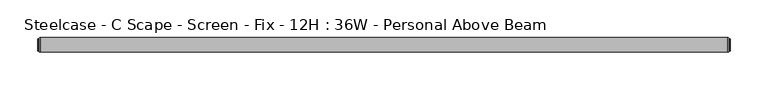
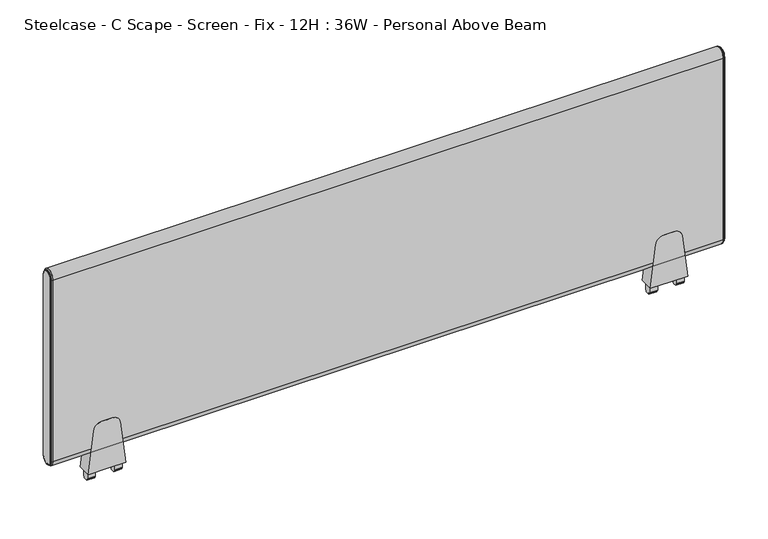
"""IFC4 building model written with IfcOpenShell, lengths in millimetres: furniture geometry, Steelcase - C Scape - Screen - Fix - 12H : 36W - Personal Above Beam."""

from ifc_helpers import new_model, si_unit, point, frame, frame_2d, origin, place, context, project, spatial, polyline, circle_curve, ellipse_curve, trimmed, segment, composite_curve, outline, extrude, source, transform, mapped, element, save
from ifc_brep_helpers import plane_surface, cylinder_surface, revolved_surface, advanced_brep


def steelcase_c_scape_screen_fix_12h_36w_personal_above_beam_a3be2cec(model_context):
    return source(origin(), model_context, "Body", "SolidModel", [
        extrude(outline(composite_curve([segment(polyline([(609.511112, 101.4730434), (669.8362421, 94.0661495)]), True, "CONTINUOUS"), segment(trimmed(circle_curve(frame_2d((668.5143718, 83.300233)), 10.8467645), [point((669.8362421, 94.0661495))], [point((679.3611362, 83.300233))], False, "CARTESIAN"), True, "CONTINUOUS"), segment(polyline([(679.3611362, 83.300233), (679.3611362, 76.2001674), (679.3611362, 69.1001018)]), True, "CONTINUOUS"), segment(trimmed(circle_curve(frame_2d((668.5143718, 69.1001018)), 10.8467645), [point((679.3611362, 69.1001018))], [point((669.8362421, 58.3341853))], False, "CARTESIAN"), True, "CONTINUOUS"), segment(polyline([(669.8362421, 58.3341853), (609.511112, 50.9272915), (609.511112, 76.2001674), (609.511112, 101.4730434)]), True, "CONTINUOUS")], self_intersect=False)), frame((0.0, -9.525, 0.0), z_axis=(0.0, 1.0, 0.0), x_axis=(0.0, 0.0, 1.0)), (0.0, 0.0, 1.0), 19.05),
        extrude(outline(polyline([(4.5465975, 609.511112), (4.5465975, 599.6051033), (4.0139265, 598.7186748), (2.9972008, 598.7186748), (2.9972008, 596.4834188), (0.0, 596.392), (-2.9972008, 596.4834188), (-2.9972008, 598.7186748), (-4.0139265, 598.7186748), (-4.5465975, 599.6051033), (-4.5465975, 609.511112), (0.0, 609.511112), (4.5465975, 609.511112)])), frame((88.9267162, 0.0, 0.0), z_axis=(1.0, 0.0, 0.0), x_axis=(0.0, 1.0, 0.0)), (0.0, 0.0, 1.0), 10.7813187),
        extrude(outline(polyline([(4.5465975, 609.511112), (4.5465975, 599.6051033), (4.0139265, 598.7186748), (2.9972008, 598.7186748), (2.9972008, 596.4834188), (0.0, 596.392), (-2.9972008, 596.4834188), (-2.9972008, 598.7186748), (-4.0139265, 598.7186748), (-4.5465975, 599.6051033), (-4.5465975, 609.511112), (0.0, 609.511112), (4.5465975, 609.511112)])), frame((52.6923, 0.0, 0.0), z_axis=(1.0, 0.0, 0.0), x_axis=(0.0, 1.0, 0.0)), (0.0, 0.0, 1.0), 10.7813187),
        extrude(outline(composite_curve([segment(polyline([(609.511112, 862.7107132), (669.8362421, 855.3038193)]), True, "CONTINUOUS"), segment(trimmed(circle_curve(frame_2d((668.5143718, 844.5379028)), 10.8467645), [point((669.8362421, 855.3038193))], [point((679.3611362, 844.5379028))], False, "CARTESIAN"), True, "CONTINUOUS"), segment(polyline([(679.3611362, 844.5379028), (679.3611362, 837.4378372), (679.3611362, 830.3377716)]), True, "CONTINUOUS"), segment(trimmed(circle_curve(frame_2d((668.5143718, 830.3377716)), 10.8467645), [point((679.3611362, 830.3377716))], [point((669.8362421, 819.5718551))], False, "CARTESIAN"), True, "CONTINUOUS"), segment(polyline([(669.8362421, 819.5718551), (609.511112, 812.1649612), (609.511112, 837.4378372), (609.511112, 862.7107132)]), True, "CONTINUOUS")], self_intersect=False)), frame((0.0, -9.525, 0.0), z_axis=(0.0, 1.0, 0.0), x_axis=(0.0, 0.0, 1.0)), (0.0, 0.0, 1.0), 19.05),
        extrude(outline(polyline([(4.5465975, 609.511112), (4.5465975, 599.6051033), (4.0139265, 598.7186748), (2.9972008, 598.7186748), (2.9972008, 596.4834188), (0.0, 596.392), (-2.9972008, 596.4834188), (-2.9972008, 598.7186748), (-4.0139265, 598.7186748), (-4.5465975, 599.6051033), (-4.5465975, 609.511112), (0.0, 609.511112), (4.5465975, 609.511112)])), frame((850.164386, 0.0, 0.0), z_axis=(1.0, 0.0, 0.0), x_axis=(0.0, 1.0, 0.0)), (0.0, 0.0, 1.0), 10.7813187),
        extrude(outline(polyline([(4.5465975, 609.511112), (4.5465975, 599.6051033), (4.0139265, 598.7186748), (2.9972008, 598.7186748), (2.9972008, 596.4834188), (0.0, 596.392), (-2.9972008, 596.4834188), (-2.9972008, 598.7186748), (-4.0139265, 598.7186748), (-4.5465975, 599.6051033), (-4.5465975, 609.511112), (0.0, 609.511112), (4.5465975, 609.511112)])), frame((813.9299698, 0.0, 0.0), z_axis=(1.0, 0.0, 0.0), x_axis=(0.0, 1.0, 0.0)), (0.0, 0.0, 1.0), 10.7813187),
        advanced_brep(
        [(910.8486613, -9.525, 904.875), (910.8486613, 9.525, 904.875), (910.8486613, 9.525, 644.525), (910.8486613, -9.525, 644.525), (913.6426613, 7.4929583, 904.875), (913.6426613, -7.4929583, 904.875), (913.6426613, -7.4929583, 644.525), (913.6426613, 7.4929583, 644.525), (913.1346545, -8.0009651, 904.875), (913.1346545, 8.0009651, 904.875), (911.8646613, 8.0009651, 904.875), (911.8646613, -8.0009651, 904.875), (911.8646613, -8.8204932, 904.875), (911.8646613, 8.8204932, 904.875), (911.8646613, -8.0009651, 644.525), (913.1346545, -8.0009651, 644.525), (911.8646613, -8.8204932, 644.525), (911.8646613, 8.0009651, 644.525), (913.1346545, 8.0009651, 644.525), (911.8646613, 8.8204932, 644.525)],
        [
            (0, 1, circle_curve(frame((910.8486613, 0.0, 904.875), z_axis=(-1.0, 0.0, 0.0), x_axis=(0.0, 1.0, 0.0)), 9.525)),
            (1, 2),
            (2, 3, circle_curve(frame((910.8486613, 0.0, 644.525), z_axis=(-1.0, 0.0, 0.0), x_axis=(0.0, -1.0, 0.0)), 9.525)),
            (3, 0),
            (4, 5, circle_curve(frame((913.6426613, 0.0, 904.875), z_axis=(1.0, 0.0, 0.0), x_axis=(0.0, 1.0, 0.0)), 7.4929583)),
            (5, 6),
            (6, 7, circle_curve(frame((913.6426613, 0.0, 644.525), z_axis=(1.0, 0.0, 0.0), x_axis=(0.0, -1.0, 0.0)), 7.4929583)),
            (7, 4),
            (8, 9, circle_curve(frame((913.1346545, 0.0, 904.875), z_axis=(-1.0, 0.0, 0.0), x_axis=(0.0, 1.0, 0.0)), 8.0009651)),
            (9, 10),
            (10, 11, circle_curve(frame((911.8646613, 0.0, 904.875), z_axis=(1.0, 0.0, 0.0), x_axis=(0.0, 1.0, 0.0)), 8.0009651)),
            (11, 8),
            (8, 5, circle_curve(frame((913.1346545, -7.4929583, 904.875), z_axis=(0.0, 0.0, 1.0), x_axis=(0.0, -1.0, 0.0)), 0.5080068)),
            (4, 9, circle_curve(frame((913.1346545, 7.4929583, 904.875), z_axis=(0.0, 0.0, 1.0), x_axis=(0.0, 1.0, 0.0)), 0.5080068)),
            (12, 13, circle_curve(frame((911.8646613, 0.0, 904.875), z_axis=(-1.0, 0.0, 0.0), x_axis=(0.0, 1.0, 0.0)), 8.8204932)),
            (13, 1, circle_curve(frame((910.7806211, 8.3420139, 904.875), z_axis=(0.0, 0.0, 1.0), x_axis=(0.0, 1.0, 0.0)), 1.1849411)),
            (0, 12, circle_curve(frame((910.7806211, -8.3420139, 904.875), z_axis=(0.0, 0.0, 1.0), x_axis=(0.0, -1.0, 0.0)), 1.1849411)),
            (11, 14),
            (14, 15),
            (15, 8),
            (15, 6, circle_curve(frame((913.1346545, -7.4929583, 644.525), z_axis=(0.0, 0.0, 1.0), x_axis=(0.0, -1.0, 0.0)), 0.5080068)),
            (3, 16, circle_curve(frame((910.7806211, -8.3420139, 644.525), z_axis=(0.0, 0.0, 1.0), x_axis=(0.0, -1.0, 0.0)), 1.1849411)),
            (16, 12),
            (14, 17, circle_curve(frame((911.8646613, 0.0, 644.525), z_axis=(1.0, 0.0, 0.0), x_axis=(0.0, -1.0, 0.0)), 8.0009651)),
            (17, 18),
            (18, 15, circle_curve(frame((913.1346545, 0.0, 644.525), z_axis=(-1.0, 0.0, 0.0), x_axis=(0.0, -1.0, 0.0)), 8.0009651)),
            (18, 7, circle_curve(frame((913.1346545, 7.4929583, 644.525), z_axis=(0.0, 0.0, -1.0), x_axis=(0.0, 1.0, 0.0)), 0.5080068)),
            (2, 19, circle_curve(frame((910.7806211, 8.3420139, 644.525), z_axis=(0.0, 0.0, -1.0), x_axis=(0.0, 1.0, 0.0)), 1.1849411)),
            (19, 16, circle_curve(frame((911.8646613, 0.0, 644.525), z_axis=(-1.0, 0.0, 0.0), x_axis=(0.0, -1.0, 0.0)), 8.8204932)),
            (9, 18),
            (17, 10),
            (13, 19),
        ],
        [
            plane_surface(frame((910.8486613, -6.3509705, 904.875), z_axis=(-1.0, 0.0, 0.0), x_axis=(0.0, 0.0, 1.0))),
            plane_surface(frame((913.6426613, -6.3509705, 904.875), z_axis=(1.0, 0.0, 0.0), x_axis=(0.0, 0.0, -1.0))),
            cylinder_surface(frame((910.8486613, 0.0, 904.875), z_axis=(1.0, 0.0, 0.0), x_axis=(0.0, 1.0, 0.0)), 8.0009651),
            revolved_surface(trimmed(ellipse_curve(frame((913.1346545, 7.4929583, 904.875), z_axis=(0.0, 0.0, -1.0), x_axis=(0.0, 1.0, 0.0)), 0.5080068, 0.5080068), [point((913.1346545, 8.0009651, 904.875))], [point((913.6426613, 7.4929583, 904.875))], True, "CARTESIAN"), (910.8486613, 0.0, 904.875), (1.0, 0.0, 0.0)),
            revolved_surface(trimmed(ellipse_curve(frame((910.7806211, 8.3420139, 904.875), z_axis=(0.0, 0.0, -1.0), x_axis=(0.0, 1.0, 0.0)), 1.1849411, 1.1849411), [point((910.8486613, 9.525, 904.875))], [point((911.8646613, 8.8204932, 904.875))], True, "CARTESIAN"), (910.8486613, 0.0, 904.875), (1.0, 0.0, 0.0)),
            plane_surface(frame((911.8646613, -8.0009651, 904.875), z_axis=(0.0, -1.0, 0.0), x_axis=(0.0, 0.0, -1.0))),
            cylinder_surface(frame((913.1346545, -7.4929583, 904.875), z_axis=(0.0, 0.0, 1.0), x_axis=(0.0, -1.0, 0.0)), 0.5080068),
            cylinder_surface(frame((910.7806211, -8.3420139, 904.875), z_axis=(0.0, 0.0, 1.0), x_axis=(0.0, -1.0, 0.0)), 1.1849411),
            cylinder_surface(frame((910.8486613, 0.0, 644.525), z_axis=(1.0, 0.0, 0.0), x_axis=(0.0, -1.0, 0.0)), 8.0009651),
            revolved_surface(trimmed(ellipse_curve(frame((913.1346545, -7.4929583, 644.525), z_axis=(0.0, 0.0, 1.0), x_axis=(0.0, -1.0, 0.0)), 0.5080068, 0.5080068), [point((913.1346545, -8.0009651, 644.525))], [point((913.6426613, -7.4929583, 644.525))], True, "CARTESIAN"), (910.8486613, 0.0, 644.525), (1.0, 0.0, 0.0)),
            revolved_surface(trimmed(ellipse_curve(frame((910.7806211, -8.3420139, 644.525), z_axis=(0.0, 0.0, 1.0), x_axis=(0.0, -1.0, 0.0)), 1.1849411, 1.1849411), [point((910.8486613, -9.525, 644.525))], [point((911.8646613, -8.8204932, 644.525))], True, "CARTESIAN"), (910.8486613, 0.0, 644.525), (1.0, 0.0, 0.0)),
            plane_surface(frame((911.8646613, 8.0009651, 644.525), z_axis=(0.0, 1.0, 0.0), x_axis=(0.0, 0.0, 1.0))),
            cylinder_surface(frame((913.1346545, 7.4929583, 644.525), z_axis=(0.0, 0.0, -1.0), x_axis=(0.0, 1.0, 0.0)), 0.5080068),
            cylinder_surface(frame((910.7806211, 8.3420139, 644.525), z_axis=(0.0, 0.0, -1.0), x_axis=(0.0, 1.0, 0.0)), 1.1849411),
            plane_surface(frame((911.8646613, 8.8204932, 644.525), z_axis=(1.0, 0.0, 0.0), x_axis=(0.0, 0.0, 1.0))),
        ],
        [
            (0, [[1, 2, 3, 4]]),
            (1, [[5, 6, 7, 8]]),
            (2, [[9, 10, 11, 12]]),
            (3, [[-9, 13, -5, 14]]),
            (4, [[15, 16, -1, 17]]),
            (5, [[-12, 18, 19, 20]]),
            (6, [[-13, -20, 21, -6]]),
            (7, [[-17, -4, 22, 23]]),
            (8, [[-19, 24, 25, 26]]),
            (9, [[-21, -26, 27, -7]]),
            (10, [[-22, -3, 28, 29]]),
            (11, [[-10, 30, -25, 31]]),
            (12, [[-14, -8, -27, -30]]),
            (13, [[-16, 32, -28, -2]]),
            (14, [[-15, -23, -29, -32], [-11, -31, -24, -18]]),
        ],
    ),
        advanced_brep(
        [(2.7940155, 9.525, 904.875), (2.7940155, -9.525, 904.875), (2.7940155, -9.525, 644.525), (2.7940155, 9.525, 644.525), (0.0, -7.4929583, 904.875), (0.0, 7.4929583, 904.875), (0.0, 7.4929583, 644.525), (0.0, -7.4929583, 644.525), (1.778, 8.8204932, 904.875), (1.778, -8.8204932, 904.875), (0.5080068, -8.0009651, 904.875), (0.5080068, 8.0009651, 904.875), (1.778, -8.0009651, 904.875), (1.778, 8.0009651, 904.875), (1.778, -8.8204932, 644.525), (0.5080068, -8.0009651, 644.525), (1.778, -8.0009651, 644.525), (1.778, 8.8204932, 644.525), (0.5080068, 8.0009651, 644.525), (1.778, 8.0009651, 644.525)],
        [
            (0, 1, circle_curve(frame((2.7940155, 0.0, 904.875), z_axis=(1.0, 0.0, 0.0), x_axis=(0.0, 1.0, 0.0)), 9.525)),
            (1, 2),
            (2, 3, circle_curve(frame((2.7940155, 0.0, 644.525), z_axis=(1.0, 0.0, 0.0), x_axis=(0.0, -1.0, 0.0)), 9.525)),
            (3, 0),
            (4, 5, circle_curve(frame((0.0, 0.0, 904.875), z_axis=(-1.0, 0.0, 0.0), x_axis=(0.0, 1.0, 0.0)), 7.4929583)),
            (5, 6),
            (6, 7, circle_curve(frame((0.0, 0.0, 644.525), z_axis=(-1.0, 0.0, 0.0), x_axis=(0.0, -1.0, 0.0)), 7.4929583)),
            (7, 4),
            (0, 8, circle_curve(frame((2.8620402, 8.3420139, 904.875), z_axis=(0.0, 0.0, 1.0), x_axis=(0.0, -1.0, 0.0)), 1.1849411)),
            (8, 9, circle_curve(frame((1.778, 0.0, 904.875), z_axis=(1.0, 0.0, 0.0), x_axis=(0.0, 1.0, 0.0)), 8.8204932)),
            (9, 1, circle_curve(frame((2.8620402, -8.3420139, 904.875), z_axis=(0.0, 0.0, 1.0), x_axis=(0.0, 1.0, 0.0)), 1.1849411)),
            (10, 11, circle_curve(frame((0.5080068, 0.0, 904.875), z_axis=(-1.0, 0.0, 0.0), x_axis=(0.0, 1.0, 0.0)), 8.0009651)),
            (11, 5, circle_curve(frame((0.5080068, 7.4929583, 904.875), z_axis=(0.0, 0.0, 1.0), x_axis=(0.0, -1.0, 0.0)), 0.5080068)),
            (4, 10, circle_curve(frame((0.5080068, -7.4929583, 904.875), z_axis=(0.0, 0.0, 1.0), x_axis=(0.0, 1.0, 0.0)), 0.5080068)),
            (10, 12),
            (12, 13, circle_curve(frame((1.778, 0.0, 904.875), z_axis=(-1.0, 0.0, 0.0), x_axis=(0.0, 1.0, 0.0)), 8.0009651)),
            (13, 11),
            (9, 14),
            (14, 2, circle_curve(frame((2.8620402, -8.3420139, 644.525), z_axis=(0.0, 0.0, 1.0), x_axis=(0.0, 1.0, 0.0)), 1.1849411)),
            (7, 15, circle_curve(frame((0.5080068, -7.4929583, 644.525), z_axis=(0.0, 0.0, 1.0), x_axis=(0.0, 1.0, 0.0)), 0.5080068)),
            (15, 10),
            (15, 16),
            (16, 12),
            (14, 17, circle_curve(frame((1.778, 0.0, 644.525), z_axis=(1.0, 0.0, 0.0), x_axis=(0.0, -1.0, 0.0)), 8.8204932)),
            (17, 3, circle_curve(frame((2.8620402, 8.3420139, 644.525), z_axis=(0.0, 0.0, -1.0), x_axis=(0.0, -1.0, 0.0)), 1.1849411)),
            (6, 18, circle_curve(frame((0.5080068, 7.4929583, 644.525), z_axis=(0.0, 0.0, -1.0), x_axis=(0.0, -1.0, 0.0)), 0.5080068)),
            (18, 15, circle_curve(frame((0.5080068, 0.0, 644.525), z_axis=(-1.0, 0.0, 0.0), x_axis=(0.0, -1.0, 0.0)), 8.0009651)),
            (18, 19),
            (19, 16, circle_curve(frame((1.778, 0.0, 644.525), z_axis=(-1.0, 0.0, 0.0), x_axis=(0.0, -1.0, 0.0)), 8.0009651)),
            (8, 17),
            (19, 13),
            (11, 18),
        ],
        [
            plane_surface(frame((2.7940155, -6.3509705, 904.875), z_axis=(1.0, 0.0, 0.0), x_axis=(0.0, 0.0, -1.0))),
            plane_surface(frame((0.0, -6.3509705, 904.875), z_axis=(-1.0, 0.0, 0.0), x_axis=(0.0, 0.0, 1.0))),
            revolved_surface(trimmed(ellipse_curve(frame((2.8620402, 8.3420139, 904.875), z_axis=(0.0, 0.0, -1.0), x_axis=(0.0, -1.0, 0.0)), 1.1849411, 1.1849411), [point((1.778, 8.8204932, 904.875))], [point((2.794, 9.525, 904.875))], True, "CARTESIAN"), (2.794, 0.0, 904.875), (1.0, 0.0, 0.0)),
            revolved_surface(trimmed(ellipse_curve(frame((0.5080068, 7.4929583, 904.875), z_axis=(0.0, 0.0, -1.0), x_axis=(0.0, -1.0, 0.0)), 0.5080068, 0.5080068), [point((0.0, 7.4929583, 904.875))], [point((0.5080068, 8.0009651, 904.875))], True, "CARTESIAN"), (2.794, 0.0, 904.875), (1.0, 0.0, 0.0)),
            cylinder_surface(frame((2.794, 0.0, 904.875), z_axis=(1.0, 0.0, 0.0), x_axis=(0.0, 1.0, 0.0)), 8.0009651),
            cylinder_surface(frame((2.8620402, -8.3420139, 904.875), z_axis=(0.0, 0.0, 1.0), x_axis=(0.0, 1.0, 0.0)), 1.1849411),
            cylinder_surface(frame((0.5080068, -7.4929583, 904.875), z_axis=(0.0, 0.0, 1.0), x_axis=(0.0, 1.0, 0.0)), 0.5080068),
            plane_surface(frame((0.5080068, -8.0009651, 904.875), z_axis=(0.0, -1.0, 0.0), x_axis=(0.0, 0.0, -1.0))),
            revolved_surface(trimmed(ellipse_curve(frame((2.8620402, -8.3420139, 644.525), z_axis=(0.0, 0.0, 1.0), x_axis=(0.0, 1.0, 0.0)), 1.1849411, 1.1849411), [point((1.778, -8.8204932, 644.525))], [point((2.794, -9.525, 644.525))], True, "CARTESIAN"), (2.794, 0.0, 644.525), (1.0, 0.0, 0.0)),
            revolved_surface(trimmed(ellipse_curve(frame((0.5080068, -7.4929583, 644.525), z_axis=(0.0, 0.0, 1.0), x_axis=(0.0, 1.0, 0.0)), 0.5080068, 0.5080068), [point((0.0, -7.4929583, 644.525))], [point((0.5080068, -8.0009651, 644.525))], True, "CARTESIAN"), (2.794, 0.0, 644.525), (1.0, 0.0, 0.0)),
            cylinder_surface(frame((2.794, 0.0, 644.525), z_axis=(1.0, 0.0, 0.0), x_axis=(0.0, -1.0, 0.0)), 8.0009651),
            plane_surface(frame((1.778, 8.0009651, 644.525), z_axis=(-1.0, 0.0, 0.0), x_axis=(0.0, 0.0, 1.0))),
            cylinder_surface(frame((2.8620402, 8.3420139, 644.525), z_axis=(0.0, 0.0, -1.0), x_axis=(0.0, -1.0, 0.0)), 1.1849411),
            cylinder_surface(frame((0.5080068, 7.4929583, 644.525), z_axis=(0.0, 0.0, -1.0), x_axis=(0.0, -1.0, 0.0)), 0.5080068),
            plane_surface(frame((0.5080068, 8.0009651, 644.525), z_axis=(0.0, 1.0, 0.0), x_axis=(0.0, 0.0, 1.0))),
        ],
        [
            (0, [[1, 2, 3, 4]]),
            (1, [[5, 6, 7, 8]]),
            (2, [[-1, 9, 10, 11]]),
            (3, [[12, 13, -5, 14]]),
            (4, [[-12, 15, 16, 17]]),
            (5, [[-11, 18, 19, -2]]),
            (6, [[-14, -8, 20, 21]]),
            (7, [[-15, -21, 22, 23]]),
            (8, [[-19, 24, 25, -3]]),
            (9, [[-20, -7, 26, 27]]),
            (10, [[-22, -27, 28, 29]]),
            (11, [[-10, 30, -24, -18], [-16, -23, -29, 31]]),
            (12, [[-9, -4, -25, -30]]),
            (13, [[-13, 32, -26, -6]]),
            (14, [[-17, -31, -28, -32]]),
        ],
    ),
        extrude(outline(composite_curve([segment(trimmed(circle_curve(frame_2d((0.0, 904.875)), 9.525), [point((-9.525, 904.875))], [point((9.525, 904.875))], False, "CARTESIAN"), True, "CONTINUOUS"), segment(polyline([(9.525, 904.875), (9.525, 644.525)]), True, "CONTINUOUS"), segment(trimmed(circle_curve(frame_2d((0.0, 644.525)), 9.525), [point((9.525, 644.525))], [point((-9.525, 644.525))], False, "CARTESIAN"), True, "CONTINUOUS"), segment(polyline([(-9.525, 644.525), (-9.525, 904.875)]), True, "CONTINUOUS")], self_intersect=False)), frame((2.794, 0.0, 0.0), z_axis=(1.0, 0.0, 0.0), x_axis=(0.0, 1.0, 0.0)), (0.0, 0.0, 1.0), 908.0546613),
    ])


if __name__ == "__main__":
    model = new_model("IFC4")
    model_context = context("Model", 3, world=origin())
    ifc_project = project(units=[si_unit("LENGTHUNIT", "METRE", prefix="MILLI")], contexts=[model_context])
    site = spatial("IfcSite", under=ifc_project)
    building = spatial("IfcBuilding", under=site)
    placement = place(None, origin())
    steelcase_c_scape_screen_fix_12h_36w_personal_above_beam_shape = steelcase_c_scape_screen_fix_12h_36w_personal_above_beam_a3be2cec(model_context)
    element("IfcFurniture", 1, ObjectType="Steelcase - C Scape - Screen - Fix - 12H : 36W - Personal Above Beam", at=placement, inside=building, context=model_context, shape_type="MappedRepresentation", body=[
        mapped(steelcase_c_scape_screen_fix_12h_36w_personal_above_beam_shape, transform((0.0, 0.0, 0.0), x_axis=(1.0, 0.0, 0.0), y_axis=(0.0, 1.0, 0.0), z_axis=(0.0, 0.0, 1.0))),
    ])
    save(model, "model.ifc")
